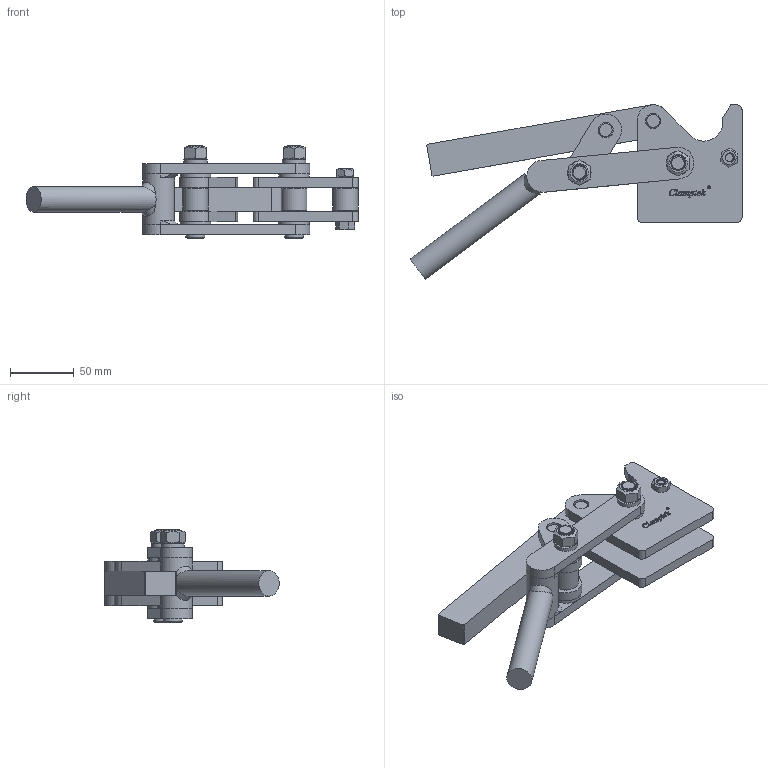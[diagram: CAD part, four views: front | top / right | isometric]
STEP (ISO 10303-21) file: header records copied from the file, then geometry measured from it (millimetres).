
FILE_DESCRIPTION(/* description */ ('STEP AP203'),/* implementation_level */ '2;1');
FILE_NAME(/* name */ 'D:\Vault_2016\Projekty\NASZ KATALOG\CLAMPTEK\STRONA\Heavy duty weldables\CH-75048\CH-75048_OTWARTY.stp',/* time_stamp */ '2019-01-21T11:39:27+01:00',/* author */ ('CADENGINEERING4'),/* organization */ ('Î¢ÈíÖÐ¹ú'),/* preprocessor_version */ 'ST-DEVELOPER v17.2',/* originating_system */ 'Autodesk Inventor 2019',/* authorisation */ '');
FILE_SCHEMA (('AUTOMOTIVE_DESIGN { 1 0 10303 214 3 1 1 }'));
Length unit declared in the file: millimetre
Products named in the file (15): CH-75048_OTWARTY; CH-75048-01 SUPPORT_Ä¬ÈÏ; M8X40_Ä¬ÈÏ; CH-75048-09_Ä¬ÈÏ; CH-75048-04 CONNECTING-PLATE_Ä¬ÈÏ; CH-75048-10_Ä¬ÈÏ; M8 NUT_Ä¬ÈÏ; CH-75048-07_Ä¬ÈÏ; CH-75048-03 HANDLE_Ä¬ÈÏ_°´¼
Ó¹¤_; CH-75048-02 BAR_Ä¬ÈÏ; CH-75048-05_Ä¬ÈÏ; CH-75048-08_Ä¬ÈÏ; CH-75048-11_Ä¬ÈÏ; CH-75048-06_Ä¬ÈÏ; M12 NUT_Ä¬ÈÏ
Assembly tree (29 placements, depth 2):
  CH-75048_OTWARTY
    CH-75048-01 SUPPORT_Ä¬ÈÏ
    M8 NUT_Ä¬ÈÏ  x2
    CH-75048-08_Ä¬ÈÏ  x4
    CH-75048-09_Ä¬ÈÏ  x2
    CH-75048-11_Ä¬ÈÏ  x4
    CH-75048-05_Ä¬ÈÏ  x3
    CH-75048-04 CONNECTING-PLATE_Ä¬ÈÏ  x2
    CH-75048-10_Ä¬ÈÏ  x2
    M8X40_Ä¬ÈÏ
    CH-75048-06_Ä¬ÈÏ  x2
    M12 NUT_Ä¬ÈÏ  x2
    CH-75048-07_Ä¬ÈÏ  x2
    CH-75048-03 HANDLE_Ä¬ÈÏ_°´¼
Ó¹¤_
    CH-75048-02 BAR_Ä¬ÈÏ
Bounding box: 261.17 x 137.3 x 73.5 mm (x, y, z)
Volume: 353611.6 mm3; surface area: 126159.9 mm2
Topology: 37 solids, 37 shells, 3432 faces, 10074 edges, 6750 vertices
Faces by surface type: plane 2074, cylinder 1074, bspline 228, cone 55, torus 1
Full cylindrical faces by diameter (mm): 1.973 x1, 2.2 x1, 6.5 x8, 8 x29, 8.4 x2, 9.6 x2, 10.5 x8, 12 x32, 13 x4, 13.6 x3, 14.5 x6, 15 x2, 20 x4, 24 x4, 25 x1
Entity records: 83252 total; most frequent: CARTESIAN_POINT 36543, ORIENTED_EDGE 10530, DIRECTION 8691, EDGE_CURVE 5265, VERTEX_POINT 3530, AXIS2_PLACEMENT_3D 2998, LINE 2695, VECTOR 2695
